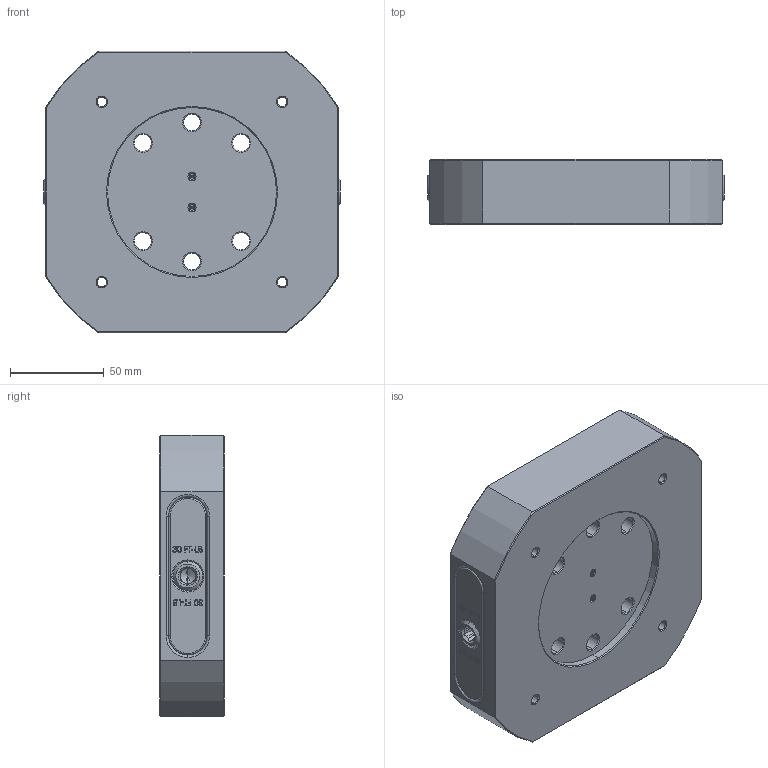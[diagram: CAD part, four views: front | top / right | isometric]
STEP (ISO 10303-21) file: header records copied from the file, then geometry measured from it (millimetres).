
FILE_DESCRIPTION (( 'STEP AP214' ), '1' );
FILE_NAME ('RL96A-DDR.STEP', '2019-07-29T19:54:00', ( '' ), ( '' ), 'SwSTEP 2.0', 'SolidWorks 2018', '' );
FILE_SCHEMA (( 'AUTOMOTIVE_DESIGN' ));
Length unit declared in the file: millimetre
Products named in the file (9): SB54_FINISHED PART; 27X20.DB; RL96-3; 033.OR in Shape of Truck; RL96-2R; RL96-2L; RL96-1DDRA; RL96A-DDR; RL96-ASSY
Assembly tree (13 placements, depth 3):
  RL96A-DDR
    RL96-1DDRA
    RL96-ASSY
      RL96-2L
      RL96-2R
      033.OR in Shape of Truck  x2
      RL96-3
      27X20.DB  x4
      SB54_FINISHED PART  x2
Bounding box: 158 x 34.5 x 150 mm (x, y, z)
Volume: 637841.5 mm3; surface area: 127917.6 mm2
Topology: 12 solids, 12 shells, 896 faces, 2192 edges, 1376 vertices
Faces by surface type: plane 411, cylinder 218, cone 122, bspline 97, torus 48
Entity records: 33186 total; most frequent: CARTESIAN_POINT 11867, ORIENTED_EDGE 4036, DIRECTION 3708, EDGE_CURVE 2018, VERTEX_POINT 1278, AXIS2_PLACEMENT_3D 1277, VECTOR 1154, LINE 1154
